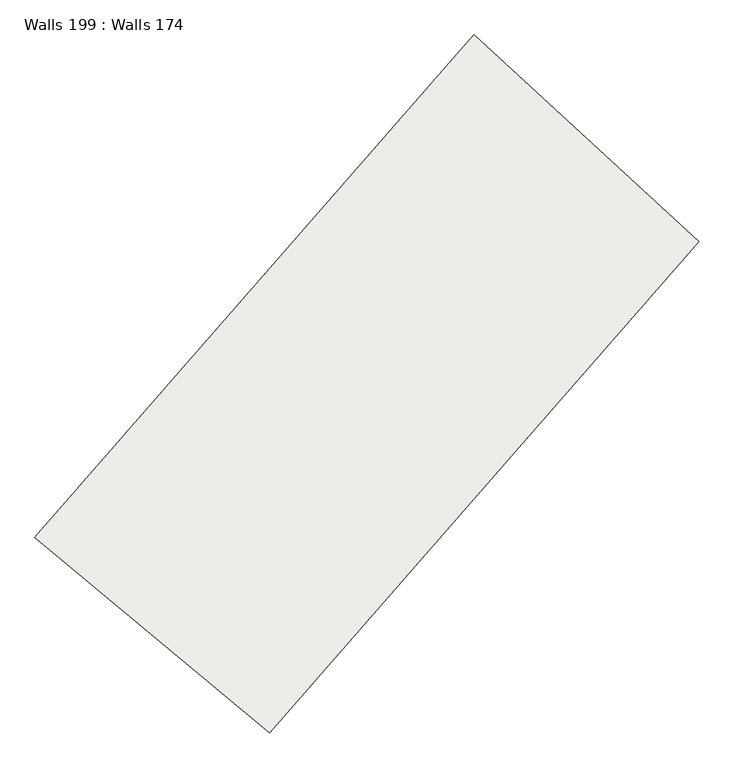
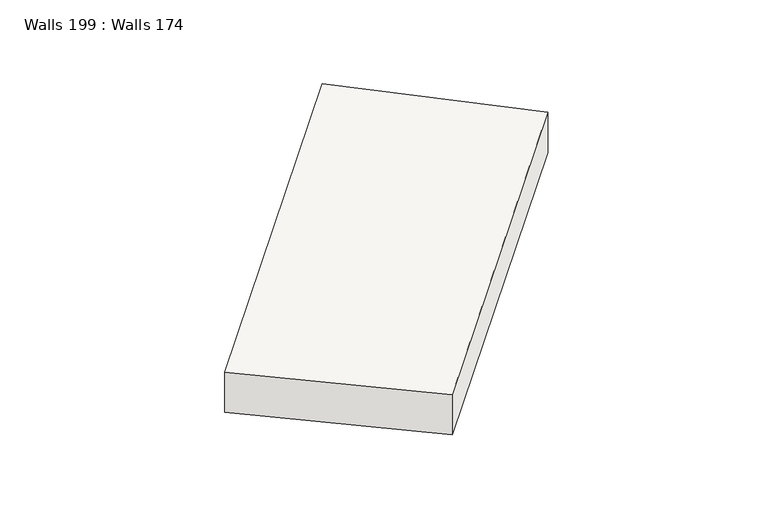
"""IFC4 building model written with IfcOpenShell, lengths in millimetres: slab geometry, Walls 199 : Walls 174."""

from ifc_helpers import new_model, si_unit, frame, origin, place, context, project, spatial, source, transform, mapped, element, save
from ifc_brep_helpers import plane_surface, spline_curve, spline_surface, advanced_brep


def walls_199_walls_174_faee190e(model_context):
    return source(origin(), model_context, "Body", "AdvancedBrep", [
        advanced_brep(
        [(226360.6965553, 132817.9643385, 642170.0), (229434.9019986, 130258.8119608, 642170.0), (229434.9019986, 130258.8119608, 643020.0), (226360.6965553, 132817.9643385, 643020.0), (232111.6893764, 139396.3768789, 642270.0), (232111.6893764, 139396.3768789, 643120.0), (235058.6604652, 136691.6844007, 643120.0), (235058.6604652, 136691.6844007, 642270.0)],
        [
            (0, 1),
            (1, 2),
            (2, 3),
            (3, 0),
            (4, 5),
            (5, 6),
            (6, 7),
            (7, 4),
            (5, 3, spline_curve(3, [(232111.6893764, 139396.3768789, 643120.0), (230142.072209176, 137250.327043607, 643086.666666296), (228224.32818711, 135056.66905769, 643053.333333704), (226360.6965553, 132817.9643385, 643020.0)], [4, 4], [0.0, 28.354573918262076])),
            (2, 6, spline_curve(3, [(229434.9019986, 130258.8119608, 643020.0), (231257.302841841, 132447.98781478, 643053.333333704), (233132.618899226, 134593.113544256, 643086.666666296), (235058.6604652, 136691.6844007, 643120.0)], [4, 4], [0.0, 28.354573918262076])),
            (7, 1, spline_curve(3, [(235058.6604652, 136691.6844007, 642270.0), (233132.618899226, 134593.113544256, 642236.666666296), (231257.302841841, 132447.98781478, 642203.333333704), (229434.9019986, 130258.8119608, 642170.0)], [4, 4], [0.0, 28.354573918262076])),
            (0, 4, spline_curve(3, [(226360.6965553, 132817.9643385, 642170.0), (228224.32818711, 135056.66905769, 642203.333333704), (230142.072209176, 137250.327043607, 642236.666666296), (232111.6893764, 139396.3768789, 642270.0)], [4, 4], [0.0, 28.354573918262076])),
        ],
        [
            plane_surface(frame((227897.7992769, 131538.3881496, 642595.0), z_axis=(-0.6397880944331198, -0.7685513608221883, 0.0), x_axis=(0.0, 0.0, 1.0))),
            plane_surface(frame((233585.1749208, 138044.0306398, 642695.0), z_axis=(0.6761731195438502, 0.7367427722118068, 0.0), x_axis=(0.7367427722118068, -0.6761731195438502, 0.0))),
            spline_surface(3, 3, [[(235058.6604652, 136691.6844007, 643120.0), (233132.618899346, 134593.113544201, 643086.666666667), (231257.302841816, 132447.987814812, 643053.333333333), (229434.9019986, 130258.8119608, 643020.0)], [(234076.336768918, 137593.248560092, 643120.0), (232135.770002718, 135478.851377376, 643086.666666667), (230246.311290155, 133317.548229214, 643053.333333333), (228410.166850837, 131111.862753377, 643020.0)], [(233094.013072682, 138494.812719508, 643120.0), (231138.921106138, 136364.589210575, 643086.666666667), (229235.319738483, 134187.108643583, 643053.333333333), (227385.431703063, 131964.913545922, 643020.0)], [(232111.6893764, 139396.3768789, 643120.0), (230142.07220951, 137250.32704375, 643086.666666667), (228224.328186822, 135056.669057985, 643053.333333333), (226360.6965553, 132817.9643385, 643020.0)]], [4, 4], [4, 4], [0.0, 13.1233593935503], [0.0, 28.354573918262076]),
            spline_surface(3, 3, [[(232111.6893764, 139396.3768789, 642270.0), (230142.07220951, 137250.32704375, 642236.666666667), (228224.328186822, 135056.669057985, 642203.333333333), (226360.6965553, 132817.9643385, 642170.0)], [(233094.013072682, 138494.812719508, 642270.0), (231138.921106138, 136364.589210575, 642236.666666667), (229235.319738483, 134187.108643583, 642203.333333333), (227385.431703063, 131964.913545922, 642170.0)], [(234076.336768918, 137593.248560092, 642270.0), (232135.770002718, 135478.851377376, 642236.666666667), (230246.311290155, 133317.548229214, 642203.333333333), (228410.166850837, 131111.862753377, 642170.0)], [(235058.6604652, 136691.6844007, 642270.0), (233132.618899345, 134593.113544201, 642236.666666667), (231257.302841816, 132447.987814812, 642203.333333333), (229434.9019986, 130258.8119608, 642170.0)]], [4, 4], [4, 4], [0.0, 13.123359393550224], [0.0, 28.354573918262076]),
            spline_surface(3, 3, [[(232111.6893764, 139396.3768789, 643120.0), (230142.07220951, 137250.32704375, 643086.666666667), (228224.328186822, 135056.669057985, 643053.333333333), (226360.6965553, 132817.9643385, 643020.0)], [(232111.6893764, 139396.3768789, 642836.666666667), (230142.07220951, 137250.32704375, 642803.333333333), (228224.328186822, 135056.669057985, 642770.0), (226360.6965553, 132817.9643385, 642736.666666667)], [(232111.6893764, 139396.3768789, 642553.333333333), (230142.07220951, 137250.32704375, 642520.0), (228224.328186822, 135056.669057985, 642486.666666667), (226360.6965553, 132817.9643385, 642453.333333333)], [(232111.6893764, 139396.3768789, 642270.0), (230142.07220951, 137250.32704375, 642236.666666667), (228224.328186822, 135056.669057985, 642203.333333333), (226360.6965553, 132817.9643385, 642170.0)]], [4, 4], [4, 4], [0.0, 2.7887139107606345], [0.0, 28.671696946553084]),
            spline_surface(3, 3, [[(235058.6604652, 136691.6844007, 642270.0), (233132.618899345, 134593.113544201, 642236.666666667), (231257.302841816, 132447.987814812, 642203.333333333), (229434.9019986, 130258.8119608, 642170.0)], [(235058.6604652, 136691.6844007, 642553.333333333), (233132.618899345, 134593.113544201, 642520.0), (231257.302841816, 132447.987814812, 642486.666666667), (229434.9019986, 130258.8119608, 642453.333333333)], [(235058.6604652, 136691.6844007, 642836.666666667), (233132.618899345, 134593.113544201, 642803.333333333), (231257.302841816, 132447.987814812, 642770.0), (229434.9019986, 130258.8119608, 642736.666666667)], [(235058.6604652, 136691.6844007, 643120.0), (233132.618899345, 134593.113544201, 643086.666666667), (231257.302841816, 132447.987814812, 643053.333333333), (229434.9019986, 130258.8119608, 643020.0)]], [4, 4], [4, 4], [0.0, 2.7887139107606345], [0.0, 28.03745136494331]),
        ],
        [
            (0, [[1, 2, 3, 4]]),
            (1, [[5, 6, 7, 8]]),
            (2, [[-6, 9, -3, 10]]),
            (3, [[-8, 11, -1, 12]]),
            (4, [[-5, -12, -4, -9]]),
            (5, [[-7, -10, -2, -11]]),
        ],
    ),
    ])


if __name__ == "__main__":
    model = new_model("IFC4")
    model_context = context("Model", 3, world=origin())
    ifc_project = project(units=[si_unit("LENGTHUNIT", "METRE", prefix="MILLI")], contexts=[model_context])
    site = spatial("IfcSite", under=ifc_project)
    building = spatial("IfcBuilding", under=site)
    placement = place(None, origin())
    walls_199_walls_174_shape = walls_199_walls_174_faee190e(model_context)
    element("IfcSlab", 1, ObjectType="Walls 199 : Walls 174", at=placement, inside=building, context=model_context, shape_type="MappedRepresentation", body=[
        mapped(walls_199_walls_174_shape, transform((0.0, 0.0, 0.0), x_axis=(1.0, 0.0, 0.0), y_axis=(0.0, 1.0, 0.0), z_axis=(0.0, 0.0, 1.0))),
    ])
    save(model, "model.ifc")
